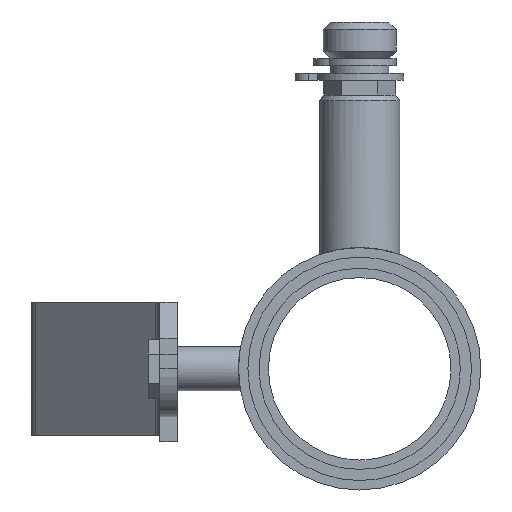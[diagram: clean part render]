
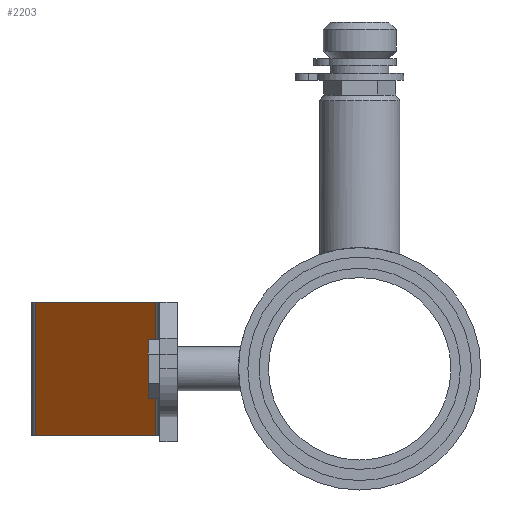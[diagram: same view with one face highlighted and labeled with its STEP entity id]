
A CAD part, left-side view. The second image highlights one B-rep face of the part: STEP entity #2203.
In plain terms, the highlighted planar face has unit normal (-0.707, 0.707, 0).
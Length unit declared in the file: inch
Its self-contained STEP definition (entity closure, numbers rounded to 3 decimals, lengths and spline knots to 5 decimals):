
#94=PLANE('',#2359);
#177=FACE_OUTER_BOUND('',#298,.T.);
#298=EDGE_LOOP('',(#1528,#1529,#1530,#1531));
#476=LINE('',#3374,#674);
#479=LINE('',#3382,#677);
#481=LINE('',#3388,#679);
#482=LINE('',#3389,#680);
#674=VECTOR('',#2681,0.3937);
#677=VECTOR('',#2688,0.3937);
#679=VECTOR('',#2694,0.3937);
#680=VECTOR('',#2695,0.3937);
#977=VERTEX_POINT('',#3371);
#978=VERTEX_POINT('',#3373);
#981=VERTEX_POINT('',#3381);
#983=VERTEX_POINT('',#3387);
#1187=EDGE_CURVE('',#977,#978,#476,.T.);
#1191=EDGE_CURVE('',#978,#981,#479,.T.);
#1194=EDGE_CURVE('',#983,#977,#481,.T.);
#1195=EDGE_CURVE('',#981,#983,#482,.T.);
#1528=ORIENTED_EDGE('',*,*,#1191,.F.);
#1529=ORIENTED_EDGE('',*,*,#1187,.F.);
#1530=ORIENTED_EDGE('',*,*,#1194,.F.);
#1531=ORIENTED_EDGE('',*,*,#1195,.F.);
#2203=ADVANCED_FACE('',(#177),#94,.T.);
#2359=AXIS2_PLACEMENT_3D('',#3386,#2692,#2693);
#2681=DIRECTION('',(-0.707,-0.707,0.));
#2688=DIRECTION('',(0.,0.,-1.));
#2692=DIRECTION('center_axis',(-0.707,0.707,0.));
#2693=DIRECTION('ref_axis',(-0.707,-0.707,0.));
#2694=DIRECTION('',(0.,0.,1.));
#2695=DIRECTION('',(0.707,0.707,0.));
#3371=CARTESIAN_POINT('',(1.98271,2.22071,0.455));
#3373=CARTESIAN_POINT('',(1.15929,1.39729,0.455));
#3374=CARTESIAN_POINT('',(1.98271,2.22071,0.455));
#3381=CARTESIAN_POINT('',(1.15929,1.39729,-0.455));
#3382=CARTESIAN_POINT('',(1.15929,1.39729,0.01382));
#3386=CARTESIAN_POINT('Origin',(1.98271,2.22071,0.));
#3387=CARTESIAN_POINT('',(1.98271,2.22071,-0.455));
#3388=CARTESIAN_POINT('',(1.98271,2.22071,0.));
#3389=CARTESIAN_POINT('',(1.98271,2.22071,-0.455));
